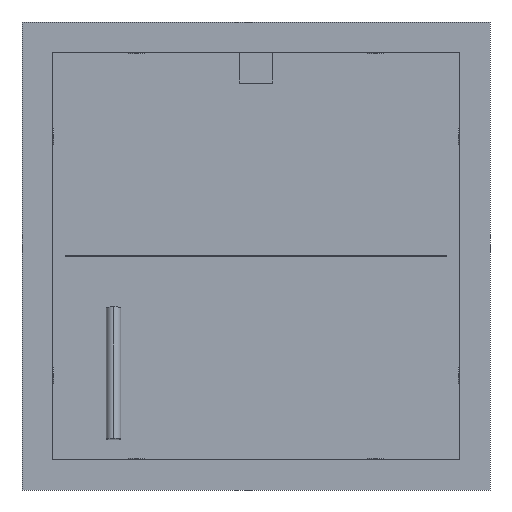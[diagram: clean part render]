
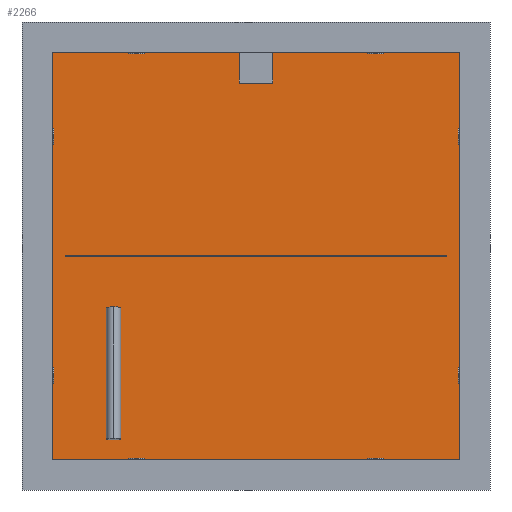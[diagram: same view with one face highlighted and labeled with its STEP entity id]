
A CAD part, front view. The second image highlights one B-rep face of the part: STEP entity #2266.
In plain terms, the highlighted planar face has unit normal (0, -1, 0).
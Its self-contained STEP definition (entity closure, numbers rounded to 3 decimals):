
#520=DIRECTION('',(0.,0.,-1.));
#521=VECTOR('',#520,896.);
#522=CARTESIAN_POINT('',(-448.,-2.,450.5));
#523=LINE('',#522,#521);
#524=DIRECTION('',(-1.,0.,0.));
#525=VECTOR('',#524,896.);
#526=CARTESIAN_POINT('',(448.,-2.,450.5));
#527=LINE('',#526,#525);
#528=DIRECTION('',(0.,0.,1.));
#529=VECTOR('',#528,896.);
#530=CARTESIAN_POINT('',(448.,-2.,-445.5));
#531=LINE('',#530,#529);
#532=DIRECTION('',(1.,0.,0.));
#533=VECTOR('',#532,896.);
#534=CARTESIAN_POINT('',(-448.,-2.,-445.5));
#535=LINE('',#534,#533);
#536=CARTESIAN_POINT('',(0.,-2.,370.));
#537=DIRECTION('',(0.,1.,0.));
#538=DIRECTION('',(-1.,0.,0.));
#539=AXIS2_PLACEMENT_3D('',#536,#537,#538);
#541=CARTESIAN_POINT('',(0.,-2.,370.));
#542=DIRECTION('',(0.,-1.,0.));
#543=DIRECTION('',(-1.,0.,0.));
#544=AXIS2_PLACEMENT_3D('',#541,#542,#543);
#546=DIRECTION('',(1.,0.,0.));
#547=VECTOR('',#546,750.);
#548=CARTESIAN_POINT('',(-375.,-2.,-1.));
#549=LINE('',#548,#547);
#550=DIRECTION('',(0.,0.,1.));
#551=VECTOR('',#550,2.);
#552=CARTESIAN_POINT('',(375.,-2.,-1.));
#553=LINE('',#552,#551);
#554=DIRECTION('',(-1.,0.,0.));
#555=VECTOR('',#554,750.);
#556=CARTESIAN_POINT('',(375.,-2.,1.));
#557=LINE('',#556,#555);
#558=DIRECTION('',(0.,0.,-1.));
#559=VECTOR('',#558,2.);
#560=CARTESIAN_POINT('',(-375.,-2.,1.));
#561=LINE('',#560,#559);
#1478=CARTESIAN_POINT('',(-17.75,-2.,370.));
#1479=CARTESIAN_POINT('',(17.75,-2.,370.));
#1480=VERTEX_POINT('',#1478);
#1481=VERTEX_POINT('',#1479);
#1522=CARTESIAN_POINT('',(-448.,-2.,450.5));
#1523=CARTESIAN_POINT('',(-448.,-2.,-445.5));
#1524=VERTEX_POINT('',#1522);
#1525=VERTEX_POINT('',#1523);
#1526=CARTESIAN_POINT('',(448.,-2.,-445.5));
#1527=VERTEX_POINT('',#1526);
#1528=CARTESIAN_POINT('',(448.,-2.,450.5));
#1529=VERTEX_POINT('',#1528);
#1790=CARTESIAN_POINT('',(-375.,-2.,-1.));
#1791=CARTESIAN_POINT('',(375.,-2.,-1.));
#1792=VERTEX_POINT('',#1790);
#1793=VERTEX_POINT('',#1791);
#1794=CARTESIAN_POINT('',(375.,-2.,1.));
#1795=VERTEX_POINT('',#1794);
#1796=CARTESIAN_POINT('',(-375.,-2.,1.));
#1797=VERTEX_POINT('',#1796);
#2235=CARTESIAN_POINT('',(0.,-2.,0.));
#2236=DIRECTION('',(0.,1.,0.));
#2237=DIRECTION('',(0.,0.,-1.));
#2238=AXIS2_PLACEMENT_3D('',#2235,#2236,#2237);
#2239=PLANE('',#2238);
#2241=ORIENTED_EDGE('',*,*,#2240,.F.);
#2243=ORIENTED_EDGE('',*,*,#2242,.F.);
#2245=ORIENTED_EDGE('',*,*,#2244,.F.);
#2247=ORIENTED_EDGE('',*,*,#2246,.F.);
#2248=EDGE_LOOP('',(#2241,#2243,#2245,#2247));
#2249=FACE_OUTER_BOUND('',#2248,.F.);
#2251=ORIENTED_EDGE('',*,*,#2250,.F.);
#2253=ORIENTED_EDGE('',*,*,#2252,.T.);
#2254=EDGE_LOOP('',(#2251,#2253));
#2255=FACE_BOUND('',#2254,.F.);
#2257=ORIENTED_EDGE('',*,*,#2256,.T.);
#2259=ORIENTED_EDGE('',*,*,#2258,.T.);
#2261=ORIENTED_EDGE('',*,*,#2260,.T.);
#2263=ORIENTED_EDGE('',*,*,#2262,.T.);
#2264=EDGE_LOOP('',(#2257,#2259,#2261,#2263));
#2265=FACE_BOUND('',#2264,.F.);
#540=CIRCLE('',#539,17.75);
#545=CIRCLE('',#544,17.75);
#2240=EDGE_CURVE('',#1524,#1525,#523,.T.);
#2242=EDGE_CURVE('',#1529,#1524,#527,.T.);
#2244=EDGE_CURVE('',#1527,#1529,#531,.T.);
#2246=EDGE_CURVE('',#1525,#1527,#535,.T.);
#2250=EDGE_CURVE('',#1480,#1481,#540,.T.);
#2252=EDGE_CURVE('',#1480,#1481,#545,.T.);
#2256=EDGE_CURVE('',#1792,#1793,#549,.T.);
#2258=EDGE_CURVE('',#1793,#1795,#553,.T.);
#2260=EDGE_CURVE('',#1795,#1797,#557,.T.);
#2262=EDGE_CURVE('',#1797,#1792,#561,.T.);
#2266=ADVANCED_FACE('',(#2249,#2255,#2265),#2239,.F.);
